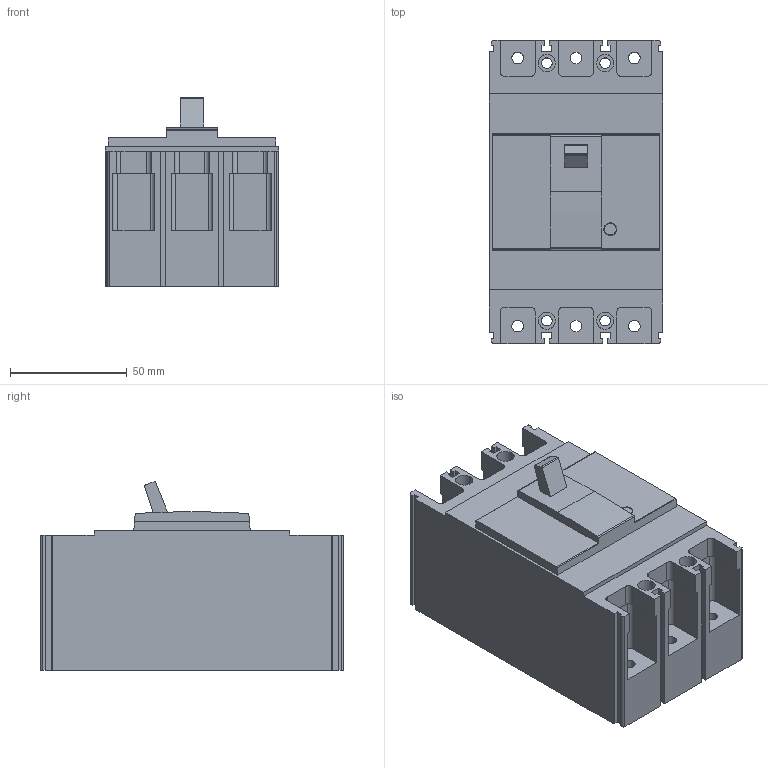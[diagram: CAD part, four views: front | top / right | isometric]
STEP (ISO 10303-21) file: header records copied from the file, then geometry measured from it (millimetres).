
FILE_DESCRIPTION (( 'STEP AP203' ), '1' );
FILE_NAME ('SMART 100AF 3P (50A 捞窍).STEP', '2018-01-04T01:16:37', ( '' ), ( '' ), 'SwSTEP 2.0', 'SolidWorks 2015', '' );
FILE_SCHEMA (( 'CONFIG_CONTROL_DESIGN' ));
Length unit declared in the file: millimetre
Products named in the file (1): SMART 100AF 3P (50A 捞窍)
Bounding box: 74.6 x 130 x 80.91 mm (x, y, z)
Volume: 525983 mm3; surface area: 61209.8 mm2
Topology: 1 solids, 1 shells, 198 faces, 615 edges, 411 vertices
Faces by surface type: plane 125, cylinder 73
Entity records: 7016 total; most frequent: ORIENTED_EDGE 1230, CARTESIAN_POINT 1225, DIRECTION 1177, EDGE_CURVE 615, VECTOR 451, LINE 451, VERTEX_POINT 411, AXIS2_PLACEMENT_3D 363
